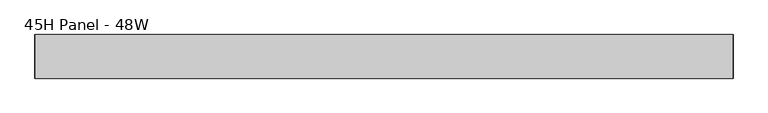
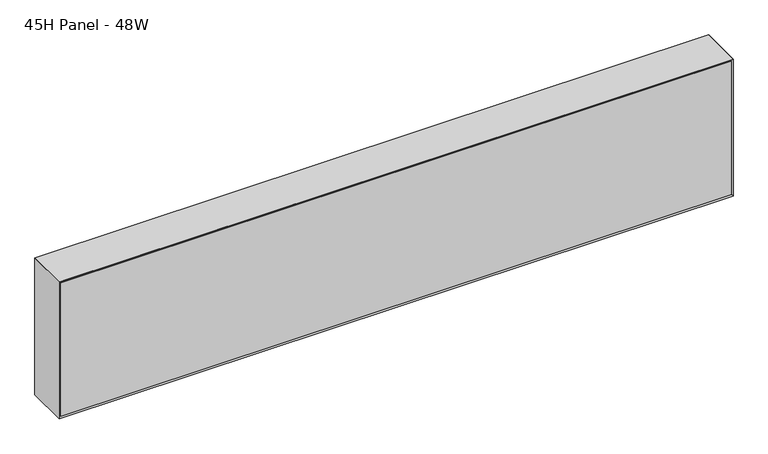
"""IFC4 building model written with IfcOpenShell, lengths in millimetres: furniture geometry, Steelcase - Montage - Frame - 10H - Enhanced Standard - Single Stack-On : 45H Panel - 48W."""

from ifc_helpers import new_model, si_unit, frame, origin, place, context, project, spatial, polyline, outline, extrude, faceted_brep, source, transform, mapped, element, save


def furniture_45h_panel_48w_b63159b6(model_context):
    return source(origin(), model_context, "Body", "SolidModel", [
        faceted_brep([(1209.6750027, 31.7500194, 1389.0752415), (9.5250028, 31.7500194, 1389.0752415), (9.5250028, 31.7500194, 1146.175), (1209.6750027, 31.7500194, 1146.175), (1216.025, 38.1000194, 1395.4252415), (1216.025, 38.1000194, 1139.825), (3.175, 38.1000194, 1139.825), (3.175, 38.1000194, 1395.4252415)], [[[0, 1, 2, 3]], [[4, 5, 6, 7]], [[4, 0, 3, 5]], [[5, 3, 2, 6]], [[6, 2, 1, 7]], [[7, 1, 0, 4]]]),
        faceted_brep([(1209.6750027, -31.7500194, 1389.0752415), (1209.6750027, -31.7500194, 1146.175), (9.5250028, -31.7500194, 1146.175), (9.5250028, -31.7500194, 1389.0752415), (1216.025, -38.1000194, 1395.4252415), (3.175, -38.1000194, 1395.4252415), (3.175, -38.1000194, 1139.825), (1216.025, -38.1000194, 1139.825)], [[[0, 1, 2, 3]], [[4, 5, 6, 7]], [[4, 7, 1, 0]], [[7, 6, 2, 1]], [[6, 5, 3, 2]], [[5, 4, 0, 3]]]),
        faceted_brep([(1219.2, -38.1000015, 1136.65), (1219.2, 38.1000015, 1136.65), (1219.2, 38.1000015, 1398.6002415), (1219.2, -38.1000106, 1398.6002414), (0.0, 38.1000015, 1136.65), (0.0, -38.1000015, 1136.65), (0.0, -38.1000015, 1398.6002415), (0.0, 38.1000015, 1398.6002415), (6.3500484, 31.749953, 1143.0000484), (1212.8499879, 31.749953, 1143.0000484), (6.35, -31.749953, 1143.0000484), (1212.8499879, -31.749953, 1143.0000484), (6.3500169, 31.7499846, 1392.2502245), (6.3500012, -31.7500003, 1392.250193), (1212.8499879, -31.7499973, 1392.250193), (1212.8499879, 31.7499885, 1392.2502293)], [[[0, 1, 2, 3]], [[4, 5, 6, 7]], [[1, 0, 5, 4]], [[1, 4, 8, 9]], [[9, 8, 10, 11]], [[5, 0, 11, 10]], [[4, 7, 12, 8]], [[6, 5, 10, 13]], [[10, 8, 12, 13]], [[9, 11, 14, 15]], [[0, 3, 14, 11]], [[2, 1, 9, 15]], [[3, 2, 15, 14]], [[7, 6, 13, 12]]]),
        faceted_brep([(1219.2, -38.1000015, 1398.6002415), (0.0, -38.1000015, 1398.6002415), (6.3500484, -31.749953, 1392.250193), (1212.8499516, -31.749953, 1392.250193), (6.3500484, 31.749953, 1392.250193), (1212.8499516, 31.749953, 1392.250193), (0.0, 38.1000015, 1398.6002415), (1219.2, 38.1000015, 1398.6002415)], [[[0, 1, 2, 3]], [[3, 2, 4, 5]], [[6, 7, 5, 4]], [[1, 0, 7, 6]], [[2, 1, 6, 4]], [[0, 3, 5, 7]]]),
        extrude(outline(polyline([(1212.8499879, 31.7500016), (1212.8499879, -31.7499985), (6.35, -31.7499985), (6.35, 31.7500016), (1212.8499879, 31.7500016)])), frame((0.0, 0.0, 1142.9952145), z_axis=(0.0, 0.0, 1.0), x_axis=(1.0, 0.0, 0.0)), (0.0, 0.0, 1.0), 249.2549785),
    ])


if __name__ == "__main__":
    model = new_model("IFC4")
    model_context = context("Model", 3, world=origin())
    ifc_project = project(units=[si_unit("LENGTHUNIT", "METRE", prefix="MILLI")], contexts=[model_context])
    site = spatial("IfcSite", under=ifc_project)
    building = spatial("IfcBuilding", under=site)
    placement = place(None, origin())
    furniture_45h_panel_48w_shape = furniture_45h_panel_48w_b63159b6(model_context)
    element("IfcFurniture", 1, ObjectType="Steelcase - Montage - Frame - 10H - Enhanced Standard - Single Stack-On : 45H Panel - 48W", at=placement, inside=building, context=model_context, shape_type="MappedRepresentation", body=[
        mapped(furniture_45h_panel_48w_shape, transform((0.0, 0.0, 0.0), x_axis=(1.0, 0.0, 0.0), y_axis=(0.0, 1.0, 0.0), z_axis=(0.0, 0.0, 1.0))),
    ])
    save(model, "model.ifc")
